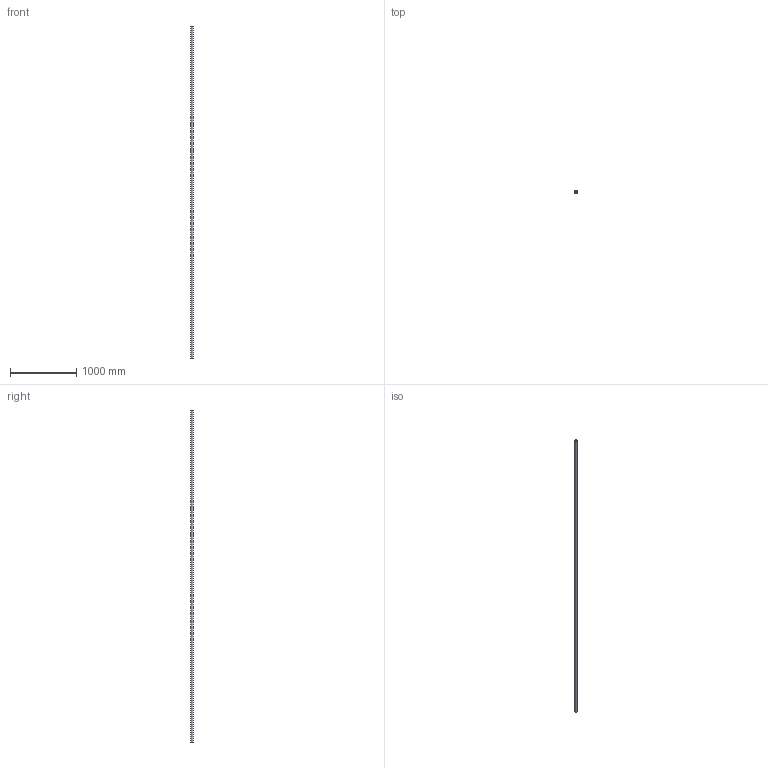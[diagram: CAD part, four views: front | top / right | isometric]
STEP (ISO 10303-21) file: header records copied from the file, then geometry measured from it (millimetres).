
FILE_DESCRIPTION(/* description */ (''),/* implementation_level */ '2;1');
FILE_NAME(/* name */ 'C:\Geberit-Teile\Export 2019\379.000.16.0\stp\360000.stp',/* time_stamp */ '2019-06-06T10:48:03+02:00',/* author */ ('JANAN'),/* organization */ (''),/* preprocessor_version */ 'ST-DEVELOPER v16.13',/* originating_system */ 'Autodesk Inventor 2018',/* authorisation */ '');
FILE_SCHEMA (('AUTOMOTIVE_DESIGN { 1 0 10303 214 3 1 1 }'));
Length unit declared in the file: millimetre
Products named in the file (1): Rohr PE-HD d40x3 L5000
Bounding box: 40 x 40 x 5000 mm (x, y, z)
Volume: 1743583.9 mm3; surface area: 1163086.7 mm2
Topology: 1 solids, 1 shells, 4 faces, 6 edges, 4 vertices
Faces by surface type: cylinder 2, plane 2
Full cylindrical faces by diameter (mm): 34 x1, 40 x1
Entity records: 131 total; most frequent: DIRECTION 18, CARTESIAN_POINT 13, AXIS2_PLACEMENT_3D 9, EDGE_LOOP 8, ORIENTED_EDGE 8, STYLED_ITEM 5, FACE_BOUND 4, FACE_OUTER_BOUND 4
